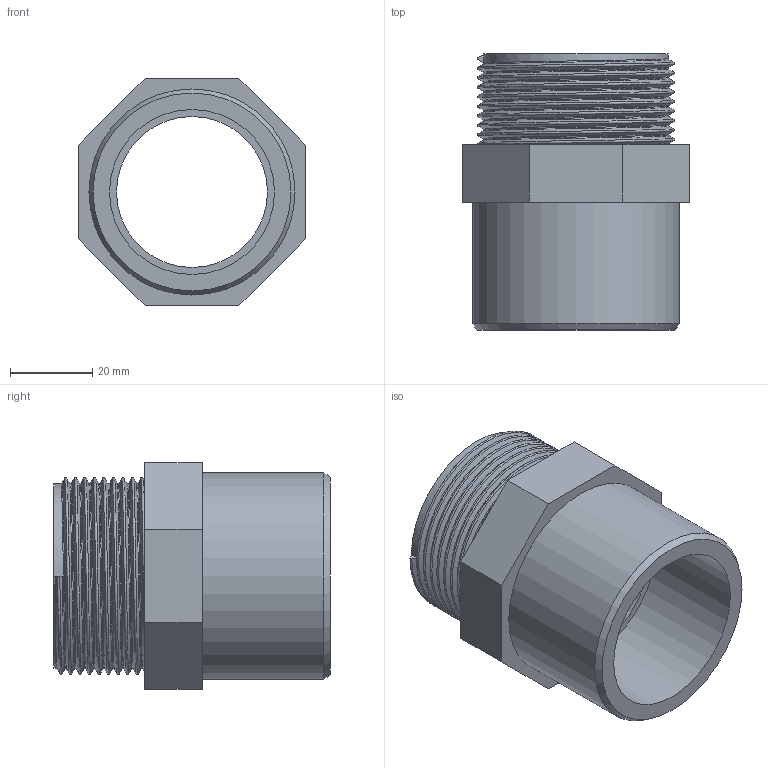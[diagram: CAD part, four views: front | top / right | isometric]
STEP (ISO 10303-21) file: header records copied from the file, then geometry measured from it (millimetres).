
FILE_DESCRIPTION(/* description */ ('PVC adattatore incollaggio-filettatura BSP maschio'),/* implementation_level */ '2;1');
FILE_NAME(/* name */ 'C:\Users\POLYPIPE\Desktop\DATASET INVENTOR\LIBRERIA EFFAST\RACCORDI 3DxWEB\RGR\3D_RGRAMG\3D_RGRAMG040F.stp',/* time_stamp */ '2018-01-19T17:36:01+01:00',/* author */ ('POLYPIPE'),/* organization */ ('Polypipe Italia s.r.l.'),/* preprocessor_version */ 'ST-DEVELOPER v16.1',/* originating_system */ 'Autodesk Inventor 2016',/* authorisation */ '');
FILE_SCHEMA (('CONFIG_CONTROL_DESIGN'));
Length unit declared in the file: millimetre
Products named in the file (1): 3D_RGRAMG
Bounding box: 55 x 67 x 55 mm (x, y, z)
Volume: 55317.1 mm3; surface area: 23538.7 mm2
Topology: 1 solids, 1 shells, 26 faces, 56 edges, 36 vertices
Faces by surface type: plane 15, cylinder 5, bspline 5, cone 1
Full cylindrical faces by diameter (mm): 36.6 x1, 37.6 x1, 40 x1, 44.845 x1, 50 x1
Entity records: 4147 total; most frequent: CARTESIAN_POINT 3594, ORIENTED_EDGE 102, DIRECTION 97, EDGE_CURVE 51, EDGE_LOOP 37, VERTEX_POINT 36, AXIS2_PLACEMENT_3D 35, LINE 27
